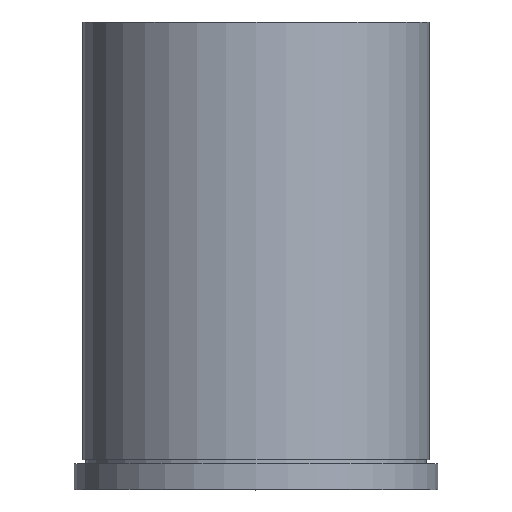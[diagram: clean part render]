
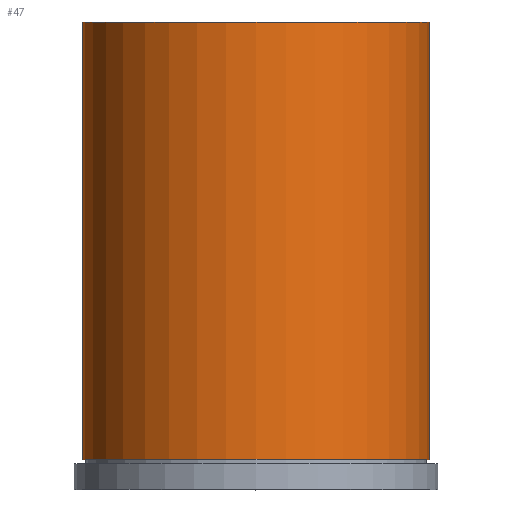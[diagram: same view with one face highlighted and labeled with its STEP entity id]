
A CAD part, top view. The second image highlights one B-rep face of the part: STEP entity #47.
In plain terms, the highlighted cylindrical face has radius 31.756 mm (diameter 63.513 mm), a partial arc.
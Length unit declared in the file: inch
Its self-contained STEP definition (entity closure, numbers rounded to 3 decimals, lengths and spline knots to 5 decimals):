
#23 = EDGE_CURVE ( 'NONE', #57, #55, #104, .T. ) ;
#24 = ORIENTED_EDGE ( 'NONE', *, *, #25, .F. ) ;
#25 = EDGE_CURVE ( 'NONE', #51, #57, #99, .T. ) ;
#47 = ADVANCED_FACE ( 'NONE', ( #238 ), #237, .T. ) ;
#48 = EDGE_LOOP ( 'NONE', ( #49, #53, #56, #24 ) ) ;
#49 = ORIENTED_EDGE ( 'NONE', *, *, #50, .T. ) ;
#50 = EDGE_CURVE ( 'NONE', #51, #52, #232, .T. ) ;
#51 = VERTEX_POINT ( 'NONE', #227 ) ;
#52 = VERTEX_POINT ( 'NONE', #283 ) ;
#53 = ORIENTED_EDGE ( 'NONE', *, *, #54, .T. ) ;
#54 = EDGE_CURVE ( 'NONE', #52, #55, #282, .T. ) ;
#55 = VERTEX_POINT ( 'NONE', #278 ) ;
#56 = ORIENTED_EDGE ( 'NONE', *, *, #23, .F. ) ;
#57 = VERTEX_POINT ( 'NONE', #277 ) ;
#96 = DIRECTION ( 'NONE',  ( 0., -1., 0. ) ) ;
#97 = VECTOR ( 'NONE', #96, 39.37008 ) ;
#98 = CARTESIAN_POINT ( 'NONE',  ( 1.25025, -39.37008, 0. ) ) ;
#99 = LINE ( 'NONE', #98, #97 ) ;
#100 = DIRECTION ( 'NONE',  ( 1., 0., 0. ) ) ;
#101 = DIRECTION ( 'NONE',  ( 0., -1., 0. ) ) ;
#102 = CARTESIAN_POINT ( 'NONE',  ( 0., 0.8445, 0. ) ) ;
#103 = AXIS2_PLACEMENT_3D ( 'NONE', #102, #101, #100 ) ;
#104 = CIRCLE ( 'NONE', #103, 1.25025 ) ;
#227 = CARTESIAN_POINT ( 'NONE',  ( 1.25025, 4.002, 0. ) ) ;
#228 = DIRECTION ( 'NONE',  ( 1., 0., 0. ) ) ;
#229 = DIRECTION ( 'NONE',  ( 0., -1., 0. ) ) ;
#230 = CARTESIAN_POINT ( 'NONE',  ( 0., 4.002, 0. ) ) ;
#231 = AXIS2_PLACEMENT_3D ( 'NONE', #230, #229, #228 ) ;
#232 = CIRCLE ( 'NONE', #231, 1.25025 ) ;
#233 = DIRECTION ( 'NONE',  ( 1., 0., 0. ) ) ;
#234 = DIRECTION ( 'NONE',  ( 0., -1., 0. ) ) ;
#235 = AXIS2_PLACEMENT_3D ( 'NONE', #236, #234, #233 ) ;
#236 = CARTESIAN_POINT ( 'NONE',  ( 0., -39.37008, 0. ) ) ;
#237 = CYLINDRICAL_SURFACE ( 'NONE', #235, 1.25025 ) ;
#238 = FACE_OUTER_BOUND ( 'NONE', #48, .T. ) ;
#277 = CARTESIAN_POINT ( 'NONE',  ( 1.25025, 0.8445, 0. ) ) ;
#278 = CARTESIAN_POINT ( 'NONE',  ( -1.25025, 0.8445, 0. ) ) ;
#279 = DIRECTION ( 'NONE',  ( 0., -1., 0. ) ) ;
#280 = VECTOR ( 'NONE', #279, 39.37008 ) ;
#281 = CARTESIAN_POINT ( 'NONE',  ( -1.25025, -39.37008, 0. ) ) ;
#282 = LINE ( 'NONE', #281, #280 ) ;
#283 = CARTESIAN_POINT ( 'NONE',  ( -1.25025, 4.002, 0. ) ) ;
